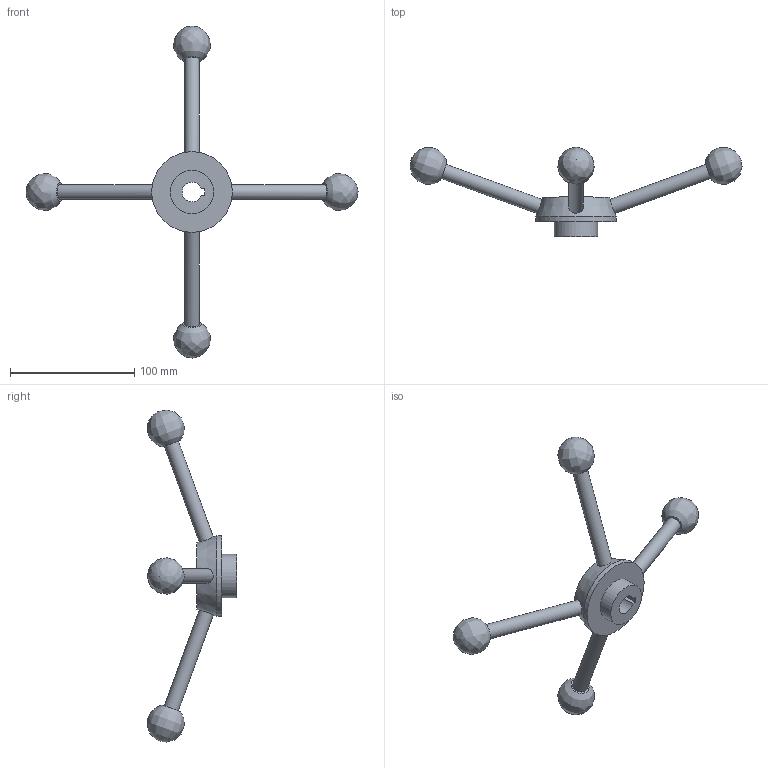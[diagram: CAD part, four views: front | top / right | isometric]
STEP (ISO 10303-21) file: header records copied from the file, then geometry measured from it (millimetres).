
FILE_DESCRIPTION( ( 'STEP AP203' ), '1' );
FILE_NAME( 'C:/Temp/Ganter_Step_05_03_2020/data/2_1/gn_213/gn_213_k/Turret lever GN 213-65-K16.stp', '2020-03-05T11:51:10', ( 'License CC BY-ND 4.0' ), ( 'CADENAS' ), ' ', 'PARTsolutions', ' ' );
FILE_SCHEMA( ( 'CONFIG_CONTROL_DESIGN' ) );
Length unit declared in the file: millimetre
Products named in the file (1): _Turret lever GN 213-65-K16
Bounding box: 267.48 x 71.97 x 267.48 mm (x, y, z)
Volume: 155484.7 mm3; surface area: 34994.8 mm2
Topology: 1 solids, 1 shells, 22 faces, 50 edges, 34 vertices
Faces by surface type: plane 10, cylinder 7, bspline 4, cone 1
Full cylindrical faces by diameter (mm): 12 x4, 35 x1, 65 x1
Entity records: 970 total; most frequent: CARTESIAN_POINT 527, DIRECTION 78, ORIENTED_EDGE 58, EDGE_LOOP 40, AXIS2_PLACEMENT_3D 34, VERTEX_POINT 29, EDGE_CURVE 29, FACE_OUTER_BOUND 28
